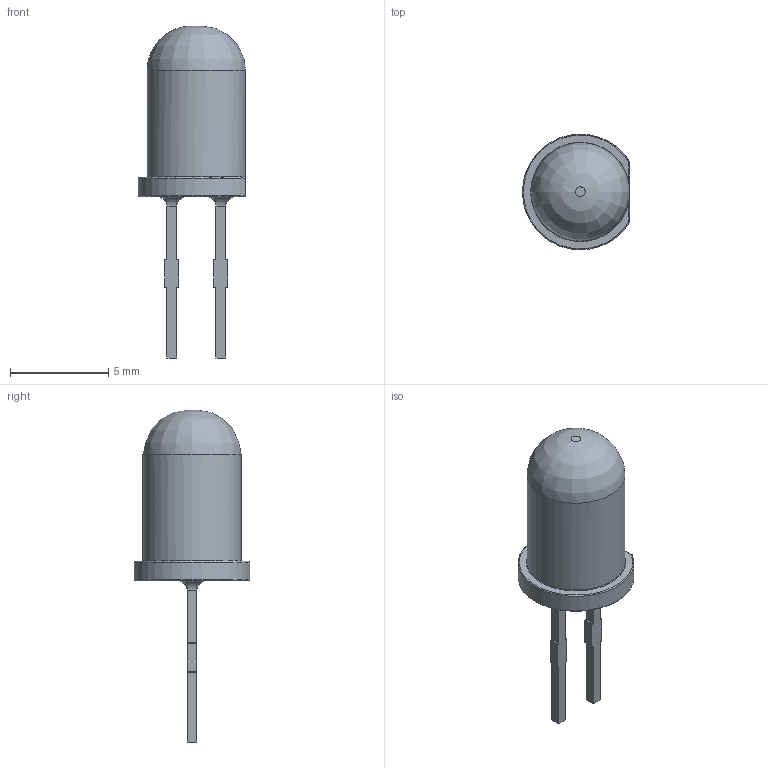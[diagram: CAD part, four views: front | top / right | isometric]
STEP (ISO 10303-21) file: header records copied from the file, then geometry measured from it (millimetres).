
FILE_DESCRIPTION(('FreeCAD Model'),'2;1');
FILE_NAME('Open CASCADE Shape Model','2024-02-21T12:52:11',( 'kicad StepUp'),('ksu MCAD'),'Open CASCADE STEP processor 7.6', 'FreeCAD','Unknown');
FILE_SCHEMA(('AUTOMOTIVE_DESIGN { 1 0 10303 214 1 1 1 1 }'));
Length unit declared in the file: millimetre
Products named in the file (1): SectionCutZ
Bounding box: 5.46 x 5.9 x 16.92 mm (x, y, z)
Volume: 168.6 mm3; surface area: 207.4 mm2
Topology: 1 solids, 1 shells, 67 faces, 172 edges, 101 vertices
Faces by surface type: plane 30, cylinder 21, torus 11, bspline 4, revolution 1
Full cylindrical faces by diameter (mm): 5 x1
Entity records: 2555 total; most frequent: CARTESIAN_POINT 433, DIRECTION 333, ORIENTED_EDGE 328, EDGE_CURVE 164, AXIS2_PLACEMENT_3D 118, VERTEX_POINT 101, LINE 96, VECTOR 96
